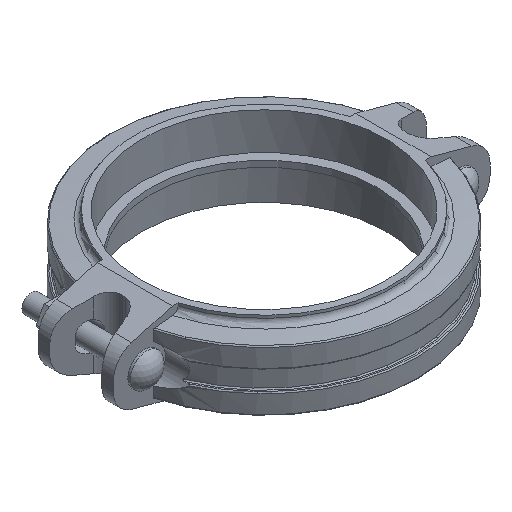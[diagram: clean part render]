
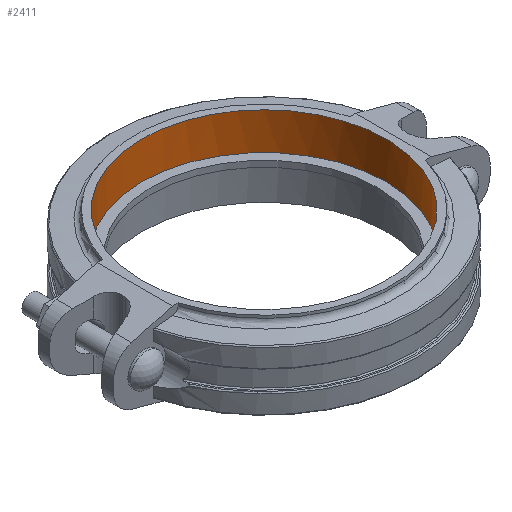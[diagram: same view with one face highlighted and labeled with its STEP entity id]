
A CAD part, isometric view. The second image highlights one B-rep face of the part: STEP entity #2411.
In plain terms, the highlighted cylindrical face has radius 82.55 mm (diameter 165.1 mm), a full revolution.
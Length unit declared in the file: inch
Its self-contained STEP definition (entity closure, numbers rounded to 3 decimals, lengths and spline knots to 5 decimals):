
#224=FACE_OUTER_BOUND('',#347,.T.);
#347=EDGE_LOOP('',(#1538,#1539,#1540,#1541,#1542,#1543));
#478=LINE('',#3505,#657);
#657=VECTOR('',#2824,3.25);
#839=CIRCLE('',#2556,3.25);
#840=CIRCLE('',#2557,3.25);
#841=CIRCLE('',#2559,3.25);
#842=CIRCLE('',#2560,3.25);
#933=VERTEX_POINT('',#3499);
#934=VERTEX_POINT('',#3500);
#935=VERTEX_POINT('',#3504);
#936=VERTEX_POINT('',#3506);
#1176=EDGE_CURVE('',#933,#934,#839,.T.);
#1177=EDGE_CURVE('',#934,#933,#840,.T.);
#1178=EDGE_CURVE('',#934,#935,#478,.T.);
#1179=EDGE_CURVE('',#936,#935,#841,.T.);
#1180=EDGE_CURVE('',#935,#936,#842,.T.);
#1538=ORIENTED_EDGE('',*,*,#1176,.T.);
#1539=ORIENTED_EDGE('',*,*,#1178,.T.);
#1540=ORIENTED_EDGE('',*,*,#1179,.F.);
#1541=ORIENTED_EDGE('',*,*,#1180,.F.);
#1542=ORIENTED_EDGE('',*,*,#1178,.F.);
#1543=ORIENTED_EDGE('',*,*,#1177,.T.);
#2243=CYLINDRICAL_SURFACE('',#2558,3.25);
#2411=ADVANCED_FACE('',(#224),#2243,.F.);
#2556=AXIS2_PLACEMENT_3D('',#3501,#2818,#2819);
#2557=AXIS2_PLACEMENT_3D('',#3502,#2820,#2821);
#2558=AXIS2_PLACEMENT_3D('',#3503,#2822,#2823);
#2559=AXIS2_PLACEMENT_3D('',#3507,#2825,#2826);
#2560=AXIS2_PLACEMENT_3D('',#3508,#2827,#2828);
#2818=DIRECTION('center_axis',(0.,0.,-1.));
#2819=DIRECTION('ref_axis',(0.,-1.,0.));
#2820=DIRECTION('center_axis',(0.,0.,-1.));
#2821=DIRECTION('ref_axis',(0.,-1.,0.));
#2822=DIRECTION('center_axis',(0.,0.,-1.));
#2823=DIRECTION('ref_axis',(0.,-1.,0.));
#2824=DIRECTION('',(0.,0.,1.));
#2825=DIRECTION('center_axis',(0.,0.,-1.));
#2826=DIRECTION('ref_axis',(-1.,0.,0.));
#2827=DIRECTION('center_axis',(0.,0.,-1.));
#2828=DIRECTION('ref_axis',(-1.,0.,0.));
#3499=CARTESIAN_POINT('',(-3.25,0.,0.08));
#3500=CARTESIAN_POINT('',(0.,3.25,0.08));
#3501=CARTESIAN_POINT('Origin',(0.,0.,0.08));
#3502=CARTESIAN_POINT('Origin',(0.,0.,0.08));
#3503=CARTESIAN_POINT('Origin',(0.,0.,0.));
#3504=CARTESIAN_POINT('',(0.,3.25,1.065));
#3505=CARTESIAN_POINT('',(0.,3.25,0.));
#3506=CARTESIAN_POINT('',(3.09233,1.,1.065));
#3507=CARTESIAN_POINT('Origin',(0.,0.,1.065));
#3508=CARTESIAN_POINT('Origin',(0.,0.,1.065));
